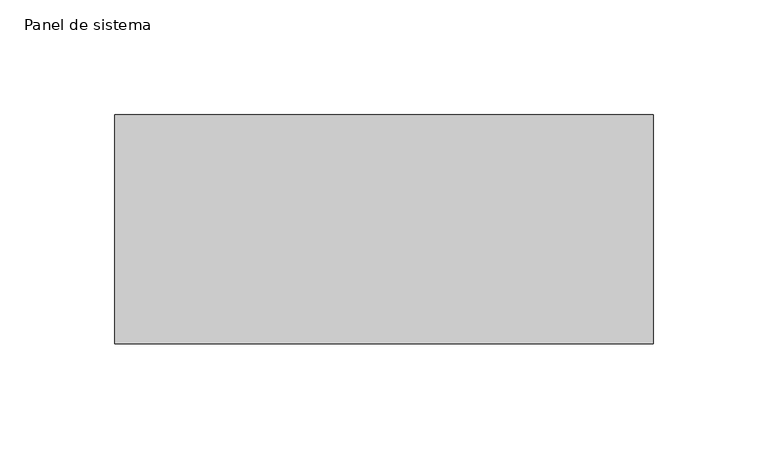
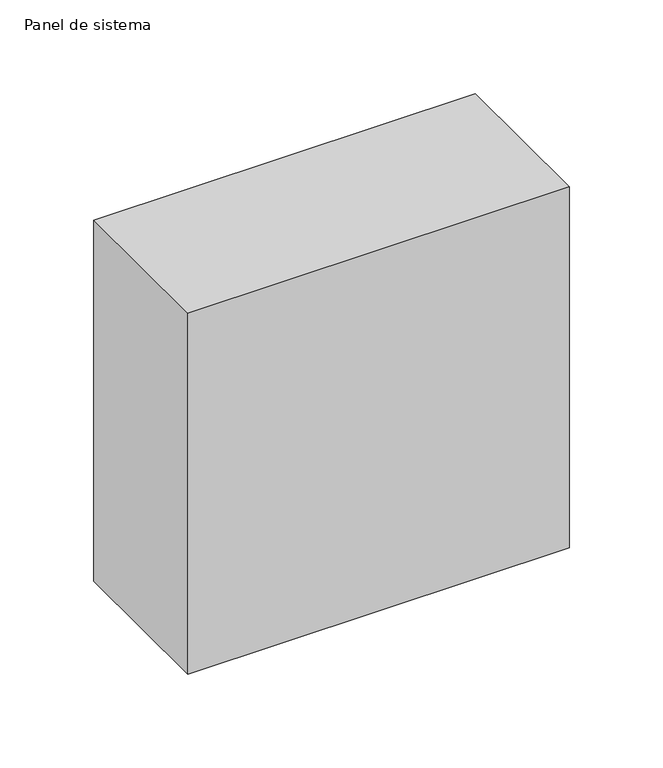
"""IFC4 building model written with IfcOpenShell, lengths in millimetres: plate geometry, Panel de sistema : PAVES."""

from ifc_helpers import new_model, si_unit, origin, origin_with_axes, place, context, project, spatial, polyline, outline, extrude, source, transform, mapped, element, save


def panel_de_sistema_6b14c2df(model_context):
    return source(origin(), model_context, "Body", "SweptSolid", [
        extrude(outline(polyline([(117.5, -50.0), (-117.5, -50.0), (-117.5, 50.0), (117.5, 50.0), (117.5, -50.0)])), origin_with_axes(), (0.0, 0.0, 1.0), 235.0),
    ])


if __name__ == "__main__":
    model = new_model("IFC4")
    model_context = context("Model", 3, world=origin())
    ifc_project = project(units=[si_unit("LENGTHUNIT", "METRE", prefix="MILLI")], contexts=[model_context])
    site = spatial("IfcSite", under=ifc_project)
    building = spatial("IfcBuilding", under=site)
    placement = place(None, origin())
    panel_de_sistema_shape = panel_de_sistema_6b14c2df(model_context)
    element("IfcPlate", 1, ObjectType="Panel de sistema : PAVES", at=placement, inside=building, context=model_context, shape_type="MappedRepresentation", body=[
        mapped(panel_de_sistema_shape, transform((0.0, 0.0, 0.0), x_axis=(1.0, 0.0, 0.0), y_axis=(0.0, 1.0, 0.0), z_axis=(0.0, 0.0, 1.0))),
    ])
    save(model, "model.ifc")
